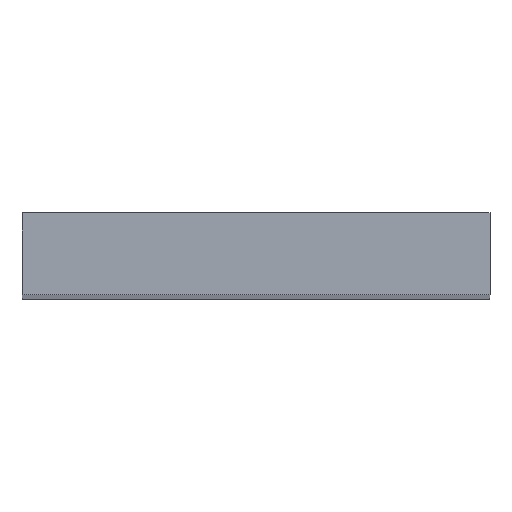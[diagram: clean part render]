
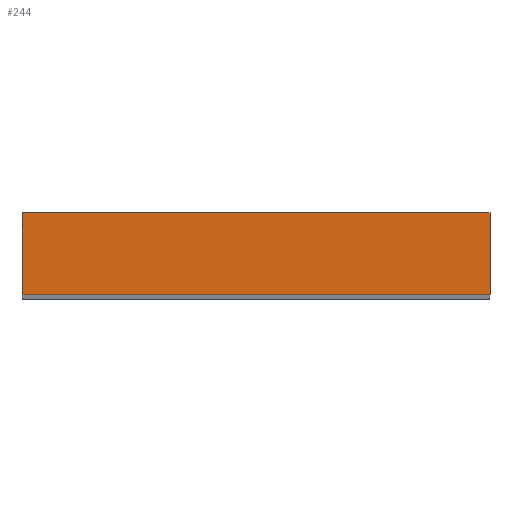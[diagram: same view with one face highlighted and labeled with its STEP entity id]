
A CAD part, top view. The second image highlights one B-rep face of the part: STEP entity #244.
In plain terms, the highlighted planar face has unit normal (0, 0, 1).
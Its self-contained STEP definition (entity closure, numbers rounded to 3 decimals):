
#26=PLANE('',#291);
#42=FACE_OUTER_BOUND('',#58,.T.);
#58=EDGE_LOOP('',(#201,#202,#203,#204));
#79=LINE('',#418,#101);
#82=LINE('',#424,#104);
#83=LINE('',#425,#105);
#84=LINE('',#426,#106);
#101=VECTOR('',#348,10.);
#104=VECTOR('',#353,10.);
#105=VECTOR('',#354,10.);
#106=VECTOR('',#355,10.);
#135=VERTEX_POINT('',#416);
#136=VERTEX_POINT('',#417);
#137=VERTEX_POINT('',#422);
#138=VERTEX_POINT('',#423);
#159=EDGE_CURVE('',#135,#136,#79,.T.);
#162=EDGE_CURVE('',#137,#138,#82,.T.);
#163=EDGE_CURVE('',#138,#136,#83,.T.);
#164=EDGE_CURVE('',#137,#135,#84,.T.);
#201=ORIENTED_EDGE('',*,*,#162,.T.);
#202=ORIENTED_EDGE('',*,*,#163,.T.);
#203=ORIENTED_EDGE('',*,*,#159,.F.);
#204=ORIENTED_EDGE('',*,*,#164,.F.);
#244=ADVANCED_FACE('',(#42),#26,.T.);
#291=AXIS2_PLACEMENT_3D('',#421,#351,#352);
#348=DIRECTION('',(1.,0.,0.));
#351=DIRECTION('center_axis',(0.,0.,1.));
#352=DIRECTION('ref_axis',(1.,0.,0.));
#353=DIRECTION('',(1.,0.,0.));
#354=DIRECTION('',(0.,1.,0.));
#355=DIRECTION('',(0.,1.,0.));
#416=CARTESIAN_POINT('',(-200.,70.,1000.));
#417=CARTESIAN_POINT('',(200.,70.,1000.));
#418=CARTESIAN_POINT('',(-200.,70.,1000.));
#421=CARTESIAN_POINT('Origin',(-200.,0.,1000.));
#422=CARTESIAN_POINT('',(-200.,0.,1000.));
#423=CARTESIAN_POINT('',(200.,0.,1000.));
#424=CARTESIAN_POINT('',(-200.,0.,1000.));
#425=CARTESIAN_POINT('',(200.,0.,1000.));
#426=CARTESIAN_POINT('',(-200.,0.,1000.));
